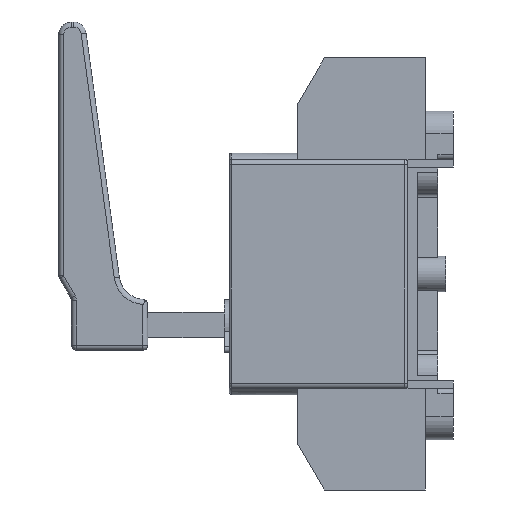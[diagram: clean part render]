
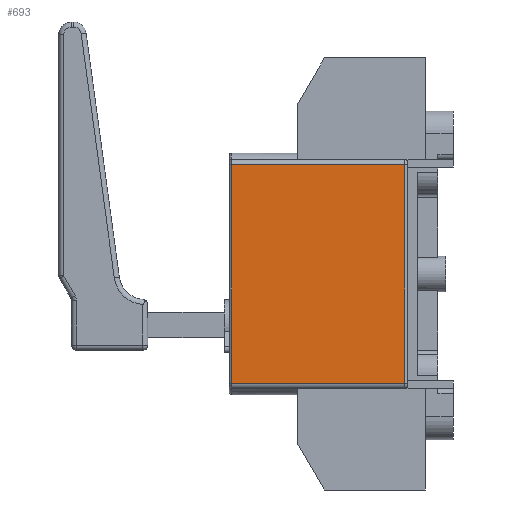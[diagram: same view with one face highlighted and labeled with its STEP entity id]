
A CAD part, left-side view. The second image highlights one B-rep face of the part: STEP entity #693.
In plain terms, the highlighted planar face has unit normal (-1, 0, 0).
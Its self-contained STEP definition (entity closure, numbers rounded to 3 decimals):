
#193=PLANE('',#7254);
#693=ADVANCED_FACE('',(#1147),#193,.F.);
#1147=FACE_OUTER_BOUND('',#1567,.T.);
#1567=EDGE_LOOP('',(#3303,#3304,#3305,#3306));
#3303=ORIENTED_EDGE('',*,*,#5320,.F.);
#3304=ORIENTED_EDGE('',*,*,#5307,.T.);
#3305=ORIENTED_EDGE('',*,*,#5321,.T.);
#3306=ORIENTED_EDGE('',*,*,#5016,.T.);
#4273=VERTEX_POINT('',#10335);
#4277=VERTEX_POINT('',#10344);
#4453=VERTEX_POINT('',#11008);
#4457=VERTEX_POINT('',#11040);
#5016=EDGE_CURVE('',#4273,#4277,#5849,.T.);
#5307=EDGE_CURVE('',#4453,#4457,#6005,.T.);
#5320=EDGE_CURVE('',#4453,#4277,#6011,.T.);
#5321=EDGE_CURVE('',#4457,#4273,#6012,.T.);
#5849=LINE('',#10345,#6448);
#6005=LINE('',#11041,#6604);
#6011=LINE('',#11092,#6610);
#6012=LINE('',#11094,#6611);
#6448=VECTOR('',#8247,1.);
#6604=VECTOR('',#8883,1.);
#6610=VECTOR('',#8907,1.);
#6611=VECTOR('',#8910,1.);
#7254=AXIS2_PLACEMENT_3D('',#11095,#8911,#8912);
#8247=DIRECTION('',(0.,0.,1.));
#8883=DIRECTION('',(0.,0.,-1.));
#8907=DIRECTION('',(0.,-1.,0.));
#8910=DIRECTION('',(0.,-1.,0.));
#8911=DIRECTION('',(1.,0.,0.));
#8912=DIRECTION('',(0.,0.,-1.));
#10335=CARTESIAN_POINT('',(-41.,1.,-43.));
#10344=CARTESIAN_POINT('',(-41.,1.,43.));
#10345=CARTESIAN_POINT('',(-41.,1.,-43.));
#11008=CARTESIAN_POINT('',(-41.,69.,43.));
#11040=CARTESIAN_POINT('',(-41.,69.,-43.));
#11041=CARTESIAN_POINT('',(-41.,69.,-43.));
#11092=CARTESIAN_POINT('',(-41.,35.,43.));
#11094=CARTESIAN_POINT('',(-41.,35.,-43.));
#11095=CARTESIAN_POINT('',(-41.,35.,-43.));
